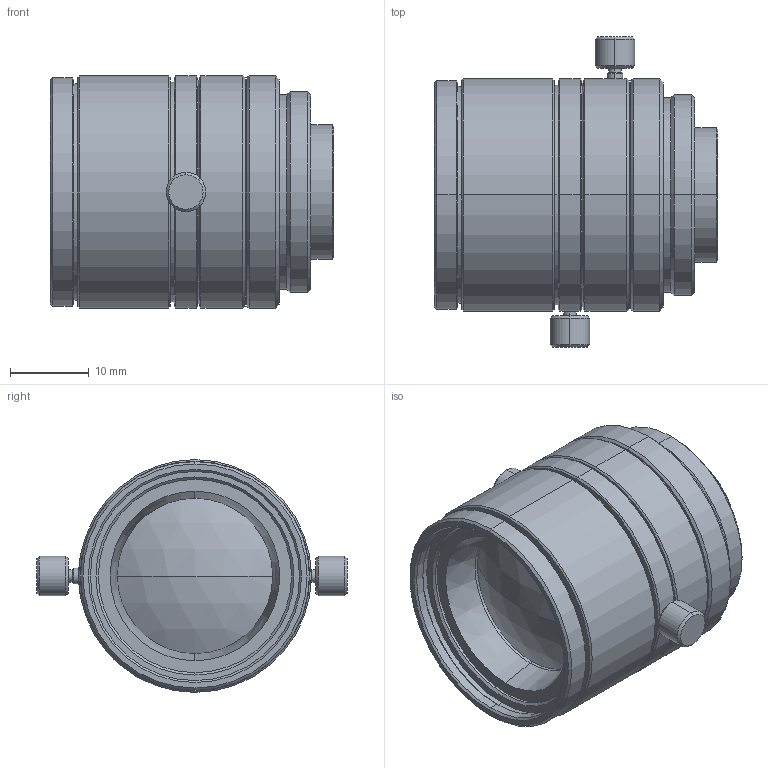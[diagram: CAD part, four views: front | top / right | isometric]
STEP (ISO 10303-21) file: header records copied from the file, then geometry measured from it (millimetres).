
FILE_DESCRIPTION (( 'STEP AP203' ), '1' );
FILE_NAME ('VS-2518VM.STEP', '2016-05-10T00:04:36', ( '' ), ( '' ), 'SwSTEP 2.0', 'SolidWorks 2016', '' );
FILE_SCHEMA (( 'CONFIG_CONTROL_DESIGN' ));
Length unit declared in the file: millimetre
Products named in the file (1): VS-2518VM
Bounding box: 35.94 x 39.35 x 29.5 mm (x, y, z)
Volume: 18956.5 mm3; surface area: 6140.4 mm2
Topology: 1 solids, 1 shells, 124 faces, 250 edges, 148 vertices
Faces by surface type: cone 56, cylinder 44, plane 20, sphere 4
Entity records: 3363 total; most frequent: DIRECTION 642, CARTESIAN_POINT 585, ORIENTED_EDGE 500, AXIS2_PLACEMENT_3D 271, EDGE_CURVE 250, VERTEX_POINT 148, CIRCLE 146, EDGE_LOOP 144
